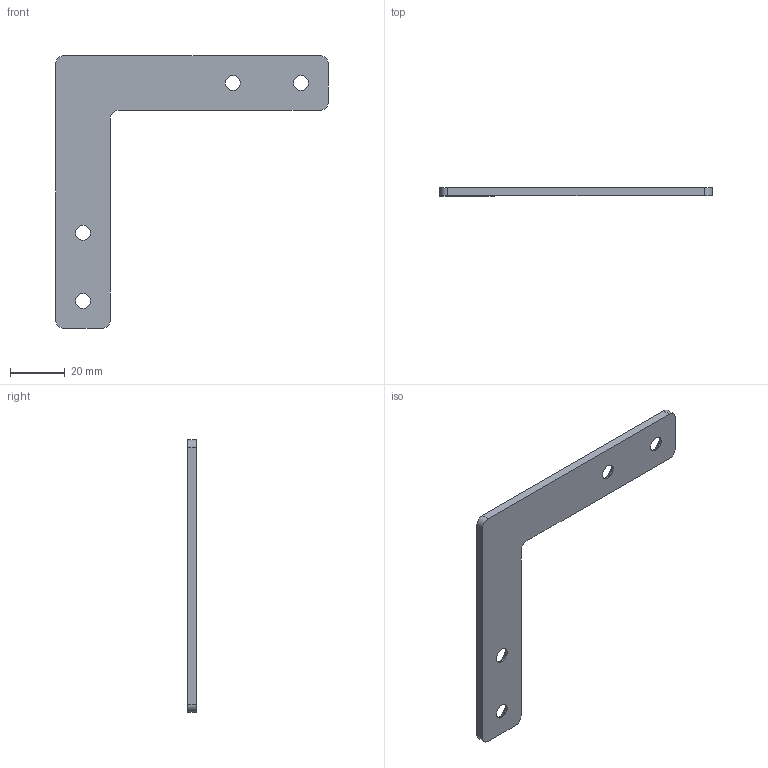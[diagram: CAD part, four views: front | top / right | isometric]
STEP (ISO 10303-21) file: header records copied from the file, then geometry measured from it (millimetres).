
FILE_DESCRIPTION (( 'STEP AP214' ), '1' );
FILE_NAME ('N20859.step', '2024-12-03T16:26:47', ( '' ), ( '' ), 'SwSTEP 2.0', 'SolidWorks 2023', '' );
FILE_SCHEMA (( 'AUTOMOTIVE_DESIGN' ));
Length unit declared in the file: millimetre
Products named in the file (1): N20859
Bounding box: 100 x 3 x 100 mm (x, y, z)
Volume: 10222.7 mm3; surface area: 8310.7 mm2
Topology: 1 solids, 1 shells, 22 faces, 56 edges, 36 vertices
Faces by surface type: cylinder 10, plane 8, cone 4
Full cylindrical faces by diameter (mm): 5.5 x4
Entity records: 671 total; most frequent: DIRECTION 118, CARTESIAN_POINT 107, ORIENTED_EDGE 96, EDGE_CURVE 48, AXIS2_PLACEMENT_3D 47, EDGE_LOOP 38, VERTEX_POINT 36, FACE_OUTER_BOUND 26
